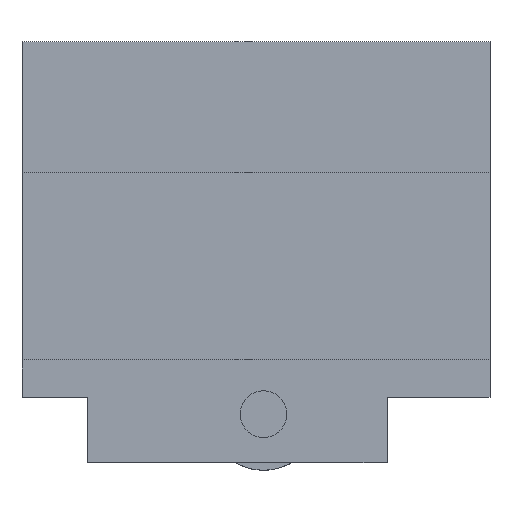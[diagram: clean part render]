
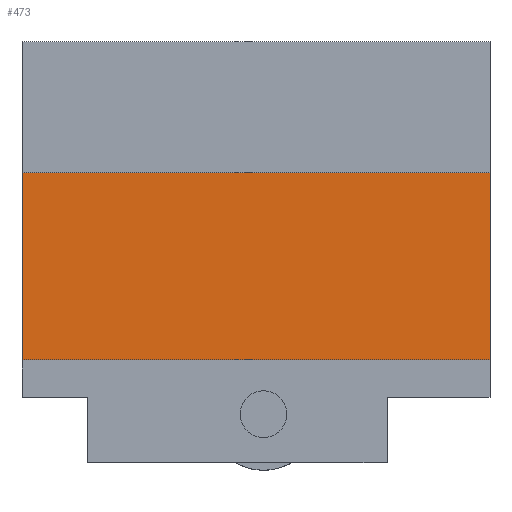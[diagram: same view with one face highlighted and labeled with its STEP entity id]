
A CAD part, front view. The second image highlights one B-rep face of the part: STEP entity #473.
In plain terms, the highlighted planar face has unit normal (0, -1, 0).
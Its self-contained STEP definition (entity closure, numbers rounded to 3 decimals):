
#166 = LINE ( 'NONE', #3408, #1205 ) ;
#473 = ADVANCED_FACE ( 'NONE', ( #3474 ), #2627, .F. ) ;
#744 = EDGE_CURVE ( 'NONE', #3305, #1700, #2410, .T. ) ;
#748 = AXIS2_PLACEMENT_3D ( 'NONE', #2599, #1523, #3178 ) ;
#804 = CARTESIAN_POINT ( 'NONE',  ( -3.5, 0.5, 2. ) ) ;
#942 = VECTOR ( 'NONE', #1492, 1000. ) ;
#1009 = EDGE_CURVE ( 'NONE', #3185, #3581, #3382, .T. ) ;
#1018 = ORIENTED_EDGE ( 'NONE', *, *, #1009, .T. ) ;
#1081 = LINE ( 'NONE', #2244, #1676 ) ;
#1168 = DIRECTION ( 'NONE',  ( 0., 0., -1. ) ) ;
#1205 = VECTOR ( 'NONE', #1168, 1000. ) ;
#1308 = EDGE_CURVE ( 'NONE', #3581, #1700, #1081, .T. ) ;
#1360 = EDGE_CURVE ( 'NONE', #3185, #3305, #166, .T. ) ;
#1492 = DIRECTION ( 'NONE',  ( -1., 0., 0. ) ) ;
#1523 = DIRECTION ( 'NONE',  ( 0., 1., 0. ) ) ;
#1676 = VECTOR ( 'NONE', #2822, 1000. ) ;
#1695 = CARTESIAN_POINT ( 'NONE',  ( 21.5, 0.5, 2. ) ) ;
#1700 = VERTEX_POINT ( 'NONE', #804 ) ;
#1856 = VECTOR ( 'NONE', #3278, 1000. ) ;
#1895 = CARTESIAN_POINT ( 'NONE',  ( 21.5, 0.5, 12. ) ) ;
#2244 = CARTESIAN_POINT ( 'NONE',  ( -3.5, 0.5, 12. ) ) ;
#2268 = CARTESIAN_POINT ( 'NONE',  ( 21.5, 0.5, 2. ) ) ;
#2410 = LINE ( 'NONE', #2268, #942 ) ;
#2473 = EDGE_LOOP ( 'NONE', ( #3162, #2950, #2995, #1018 ) ) ;
#2599 = CARTESIAN_POINT ( 'NONE',  ( -6., 0.5, 1. ) ) ;
#2627 = PLANE ( 'NONE',  #748 ) ;
#2654 = CARTESIAN_POINT ( 'NONE',  ( 21.5, 0.5, 12. ) ) ;
#2822 = DIRECTION ( 'NONE',  ( 0., 0., -1. ) ) ;
#2950 = ORIENTED_EDGE ( 'NONE', *, *, #744, .F. ) ;
#2995 = ORIENTED_EDGE ( 'NONE', *, *, #1360, .F. ) ;
#3032 = CARTESIAN_POINT ( 'NONE',  ( -3.5, 0.5, 12. ) ) ;
#3162 = ORIENTED_EDGE ( 'NONE', *, *, #1308, .T. ) ;
#3178 = DIRECTION ( 'NONE',  ( 0., 0., 1. ) ) ;
#3185 = VERTEX_POINT ( 'NONE', #1895 ) ;
#3278 = DIRECTION ( 'NONE',  ( -1., 0., 0. ) ) ;
#3305 = VERTEX_POINT ( 'NONE', #1695 ) ;
#3382 = LINE ( 'NONE', #2654, #1856 ) ;
#3408 = CARTESIAN_POINT ( 'NONE',  ( 21.5, 0.5, 12. ) ) ;
#3474 = FACE_OUTER_BOUND ( 'NONE', #2473, .T. ) ;
#3581 = VERTEX_POINT ( 'NONE', #3032 ) ;
